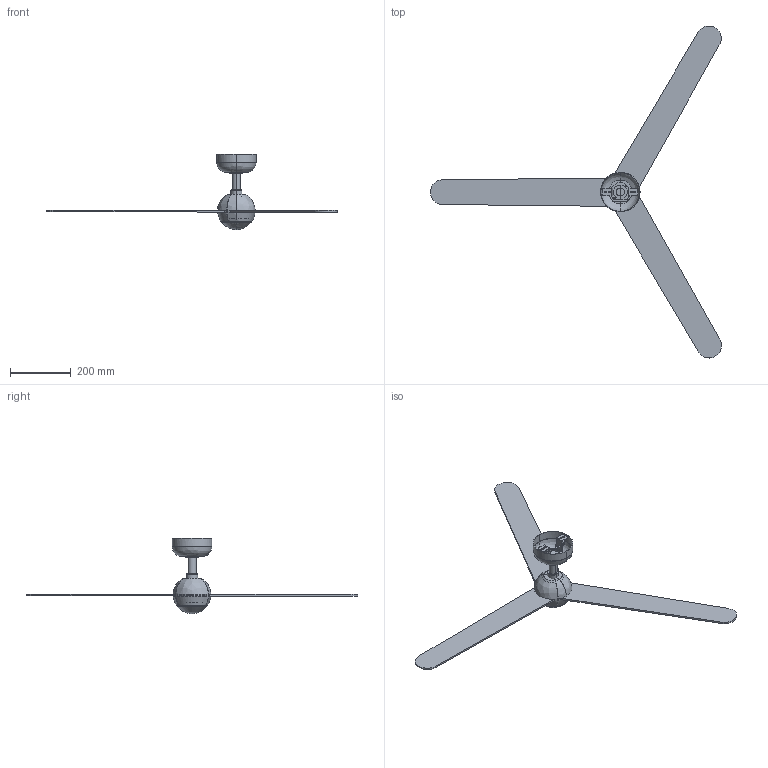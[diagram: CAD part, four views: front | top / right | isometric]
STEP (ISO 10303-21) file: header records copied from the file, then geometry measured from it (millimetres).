
FILE_DESCRIPTION(/* description */ (''),/* implementation_level */ '2;1');
FILE_NAME(/* name */ '34272_3d',/* time_stamp */ '2026-06-02T11:52:56+02:00',/* author */ (''),/* organization */ (''),/* preprocessor_version */ 'ST-DEVELOPER v19.2',/* originating_system */ 'Rhino 8.30',/* authorisation */ '');
FILE_SCHEMA (('CONFIG_CONTROL_DESIGN'));
Length unit declared in the file: millimetre
Products named in the file (12): Document; SFERA_M - fan-526272-_3D_; Bloque 01; Bloque 02; Bloque 03; Bloque 04; Bloque 05; Bloque 06; Bloque 07; Bloque 08; Bloque 09; Bloque 10
Bounding box: 957.62 x 1092.87 x 248.42 mm (x, y, z)
Surface area: 543652.8 mm2 (no closed solid volume)
Topology: 0 solids, 257 shells, 262 faces, 1411 edges, 1404 vertices
Faces by surface type: plane 140, cylinder 66, bspline 56
Entity records: 24887 total; most frequent: CARTESIAN_POINT 12743, ORIENTED_EDGE 1414, EDGE_CURVE 1409, VERTEX_POINT 1404, B_SPLINE_CURVE_WITH_KNOTS 1068, DIRECTION 934, AXIS2_PLACEMENT_3D 570, TRIMMED_CURVE 331
